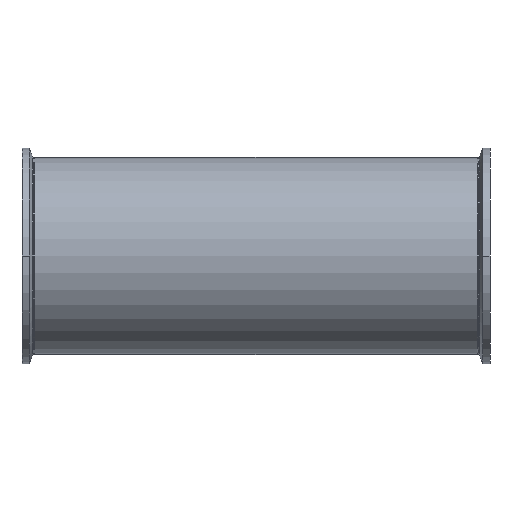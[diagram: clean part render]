
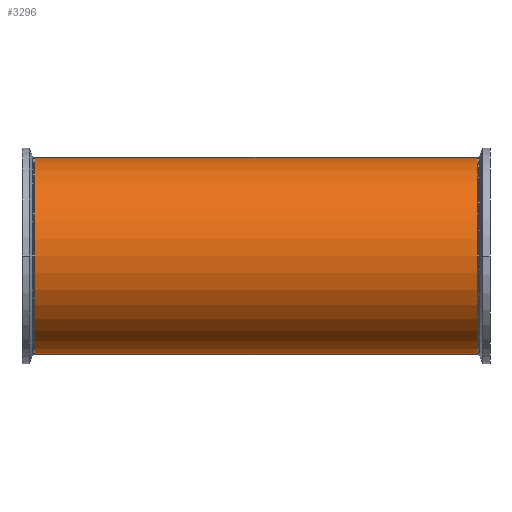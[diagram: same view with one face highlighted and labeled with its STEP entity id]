
A CAD part, front view. The second image highlights one B-rep face of the part: STEP entity #3296.
In plain terms, the highlighted cylindrical face has radius 76.2 mm (diameter 152.4 mm), a partial arc.
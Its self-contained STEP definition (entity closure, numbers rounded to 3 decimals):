
#208 = EDGE_CURVE ( 'NONE', #1339, #4692, #1352, .T. ) ;
#212 = AXIS2_PLACEMENT_3D ( 'NONE', #1715, #4052, #931 ) ;
#374 = EDGE_CURVE ( 'NONE', #3243, #1139, #2064, .T. ) ;
#410 = ORIENTED_EDGE ( 'NONE', *, *, #4473, .T. ) ;
#444 = AXIS2_PLACEMENT_3D ( 'NONE', #4014, #1680, #4424 ) ;
#575 = EDGE_CURVE ( 'NONE', #1139, #4692, #4779, .T. ) ;
#893 = CARTESIAN_POINT ( 'NONE',  ( 171., 0., 76.2 ) ) ;
#931 = DIRECTION ( 'NONE',  ( 0., 0., 1. ) ) ;
#1035 = VECTOR ( 'NONE', #1069, 1000. ) ;
#1069 = DIRECTION ( 'NONE',  ( -1., 0., 0. ) ) ;
#1139 = VERTEX_POINT ( 'NONE', #1171 ) ;
#1171 = CARTESIAN_POINT ( 'NONE',  ( -171., 0., 76.2 ) ) ;
#1203 = FACE_OUTER_BOUND ( 'NONE', #2238, .T. ) ;
#1339 = VERTEX_POINT ( 'NONE', #3056 ) ;
#1352 = LINE ( 'NONE', #2095, #2127 ) ;
#1680 = DIRECTION ( 'NONE',  ( -1., 0., 0. ) ) ;
#1715 = CARTESIAN_POINT ( 'NONE',  ( 386.526, 0., 0. ) ) ;
#2064 = LINE ( 'NONE', #3770, #1035 ) ;
#2095 = CARTESIAN_POINT ( 'NONE',  ( 386.526, 0., -76.2 ) ) ;
#2127 = VECTOR ( 'NONE', #2390, 1000. ) ;
#2193 = CARTESIAN_POINT ( 'NONE',  ( -171., 0., -76.2 ) ) ;
#2238 = EDGE_LOOP ( 'NONE', ( #3341, #410, #2719, #4081 ) ) ;
#2390 = DIRECTION ( 'NONE',  ( -1., 0., 0. ) ) ;
#2715 = CARTESIAN_POINT ( 'NONE',  ( -171., 0., 0. ) ) ;
#2719 = ORIENTED_EDGE ( 'NONE', *, *, #374, .T. ) ;
#2734 = DIRECTION ( 'NONE',  ( 1., 0., 0. ) ) ;
#2745 = DIRECTION ( 'NONE',  ( 0., 0., 1. ) ) ;
#3056 = CARTESIAN_POINT ( 'NONE',  ( 171., 0., -76.2 ) ) ;
#3243 = VERTEX_POINT ( 'NONE', #893 ) ;
#3296 = ADVANCED_FACE ( 'NONE', ( #1203 ), #4065, .T. ) ;
#3341 = ORIENTED_EDGE ( 'NONE', *, *, #208, .F. ) ;
#3656 = CIRCLE ( 'NONE', #444, 76.2 ) ;
#3770 = CARTESIAN_POINT ( 'NONE',  ( 386.526, 0., 76.2 ) ) ;
#4014 = CARTESIAN_POINT ( 'NONE',  ( 171., 0., 0. ) ) ;
#4052 = DIRECTION ( 'NONE',  ( -1., 0., 0. ) ) ;
#4065 = CYLINDRICAL_SURFACE ( 'NONE', #212, 76.2 ) ;
#4081 = ORIENTED_EDGE ( 'NONE', *, *, #575, .T. ) ;
#4424 = DIRECTION ( 'NONE',  ( 0., 0., 1. ) ) ;
#4473 = EDGE_CURVE ( 'NONE', #1339, #3243, #3656, .T. ) ;
#4692 = VERTEX_POINT ( 'NONE', #2193 ) ;
#4779 = CIRCLE ( 'NONE', #5013, 76.2 ) ;
#5013 = AXIS2_PLACEMENT_3D ( 'NONE', #2715, #2734, #2745 ) ;
